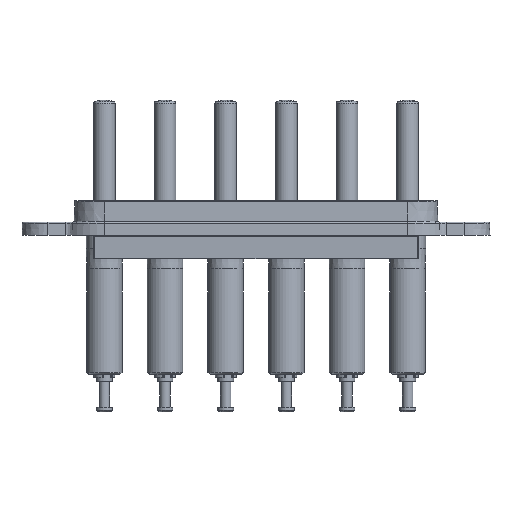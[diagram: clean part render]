
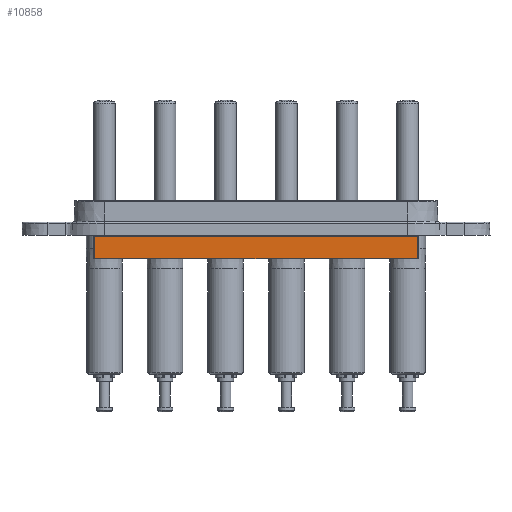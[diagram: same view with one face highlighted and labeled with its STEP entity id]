
A CAD part, top view. The second image highlights one B-rep face of the part: STEP entity #10858.
In plain terms, the highlighted planar face has unit normal (0, -0.018, 1).
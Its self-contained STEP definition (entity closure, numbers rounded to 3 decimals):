
#20 = CARTESIAN_POINT ( 'NONE',  ( -1.145, -0.098, 4.445 ) ) ;
#335 = CARTESIAN_POINT ( 'NONE',  ( -1.2, -0.098, 4.445 ) ) ;
#406 = CARTESIAN_POINT ( 'NONE',  ( 36.1, -2.7, 4.4 ) ) ;
#1654 = VERTEX_POINT ( 'NONE', #11836 ) ;
#2314 = VERTEX_POINT ( 'NONE', #5872 ) ;
#3033 = VECTOR ( 'NONE', #13011, 1000. ) ;
#3184 = DIRECTION ( 'NONE',  ( 0.017, -1., -0.017 ) ) ;
#3185 = VECTOR ( 'NONE', #3184, 1000. ) ;
#3216 = EDGE_CURVE ( 'NONE', #10447, #1654, #5184, .T. ) ;
#3350 = LINE ( 'NONE', #335, #12545 ) ;
#3500 = FACE_OUTER_BOUND ( 'NONE', #5506, .T. ) ;
#4121 = CARTESIAN_POINT ( 'NONE',  ( -1.2, -2.7, 4.4 ) ) ;
#4313 = ORIENTED_EDGE ( 'NONE', *, *, #8670, .T. ) ;
#5119 = EDGE_CURVE ( 'NONE', #1654, #13195, #10837, .T. ) ;
#5184 = LINE ( 'NONE', #4121, #12948 ) ;
#5506 = EDGE_LOOP ( 'NONE', ( #8484, #10507, #10913, #4313 ) ) ;
#5872 = CARTESIAN_POINT ( 'NONE',  ( -1.145, -0.098, 4.445 ) ) ;
#7403 = CARTESIAN_POINT ( 'NONE',  ( 36.145, -0.098, 4.445 ) ) ;
#8070 = PLANE ( 'NONE',  #14167 ) ;
#8484 = ORIENTED_EDGE ( 'NONE', *, *, #3216, .T. ) ;
#8670 = EDGE_CURVE ( 'NONE', #2314, #10447, #9001, .T. ) ;
#8987 = CARTESIAN_POINT ( 'NONE',  ( -1.1, -2.7, 4.4 ) ) ;
#9001 = LINE ( 'NONE', #20, #3185 ) ;
#9370 = DIRECTION ( 'NONE',  ( 0., -1., -0.017 ) ) ;
#9832 = DIRECTION ( 'NONE',  ( 1., 0., 0. ) ) ;
#10447 = VERTEX_POINT ( 'NONE', #8987 ) ;
#10507 = ORIENTED_EDGE ( 'NONE', *, *, #5119, .T. ) ;
#10756 = DIRECTION ( 'NONE',  ( 0., -0.017, 1. ) ) ;
#10837 = LINE ( 'NONE', #406, #3033 ) ;
#10858 = ADVANCED_FACE ( 'NONE', ( #3500 ), #8070, .T. ) ;
#10913 = ORIENTED_EDGE ( 'NONE', *, *, #12069, .T. ) ;
#11836 = CARTESIAN_POINT ( 'NONE',  ( 36.1, -2.7, 4.4 ) ) ;
#12069 = EDGE_CURVE ( 'NONE', #13195, #2314, #3350, .T. ) ;
#12423 = DIRECTION ( 'NONE',  ( -1., 0., 0. ) ) ;
#12545 = VECTOR ( 'NONE', #12423, 1000. ) ;
#12934 = CARTESIAN_POINT ( 'NONE',  ( -1.2, -2.7, 4.4 ) ) ;
#12948 = VECTOR ( 'NONE', #9832, 1000. ) ;
#13011 = DIRECTION ( 'NONE',  ( 0.017, 1., 0.017 ) ) ;
#13195 = VERTEX_POINT ( 'NONE', #7403 ) ;
#14167 = AXIS2_PLACEMENT_3D ( 'NONE', #12934, #10756, #9370 ) ;
